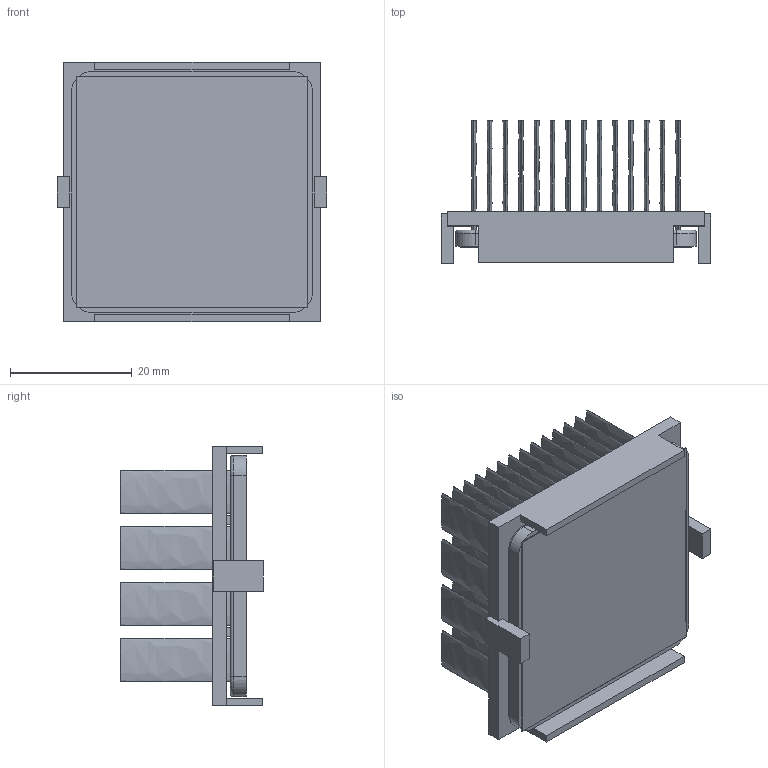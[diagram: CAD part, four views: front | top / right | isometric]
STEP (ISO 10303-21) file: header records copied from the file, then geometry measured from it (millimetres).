
FILE_DESCRIPTION (( 'STEP AP214' ), '1' );
FILE_NAME ('INM40001-21W-2.6K30.STEP', '2023-02-21T17:41:09', ( '' ), ( '' ), 'SwSTEP 2.0', 'SolidWorks 2020', '' );
FILE_SCHEMA (( 'AUTOMOTIVE_DESIGN' ));
Length unit declared in the file: inch
Products named in the file (1): INM40001-21W-2.6K30
Bounding box: 44.2 x 23.4 x 42.7 mm (x, y, z)
Volume: 10814.8 mm3; surface area: 24207.3 mm2
Topology: 3 solids, 3 shells, 246 faces, 544 edges, 360 vertices
Faces by surface type: plane 122, bspline 112, cylinder 8, torus 4
Entity records: 10244 total; most frequent: CARTESIAN_POINT 2607, ORIENTED_EDGE 1088, DIRECTION 610, EDGE_CURVE 544, VERTEX_POINT 360, EDGE_LOOP 304, VECTOR 300, LINE 300
